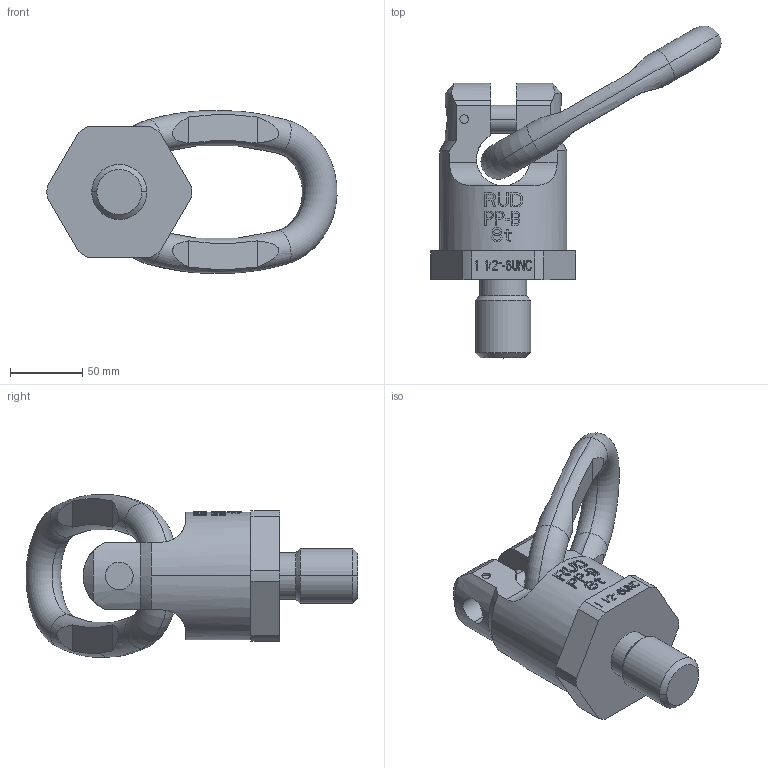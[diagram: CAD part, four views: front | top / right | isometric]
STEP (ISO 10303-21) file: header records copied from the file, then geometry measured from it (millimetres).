
FILE_DESCRIPTION((''),'2;1');
FILE_NAME('001-M31445-P4-60_ASM','2008-10-29T',('Azubitbm'),('RAND'),'PRO/ENGINEER BY PARAMETRIC TECHNOLOGY CORPORATION, 2005030','PRO/ENGINEER BY PARAMETRIC TECHNOLOGY CORPORATION, 2005030','');
FILE_SCHEMA(('CONFIG_CONTROL_DESIGN'));
Length unit declared in the file: millimetre
Products named in the file (4): 001-M31445-002; 001-M31445-007; 001-M31290-005; 001-M31445-P4-60_ASM
Assembly tree (3 placements, depth 2):
  001-M31445-P4-60_ASM
    001-M31445-002
    001-M31445-007
    001-M31290-005
Bounding box: 200.5 x 229.47 x 112.27 mm (x, y, z)
Volume: 818449.6 mm3; surface area: 102953.1 mm2
Topology: 3 solids, 3 shells, 562 faces, 1544 edges, 1024 vertices
Faces by surface type: plane 498, cylinder 48, cone 8, torus 8
Entity records: 18232 total; most frequent: CARTESIAN_POINT 4387, ORIENTED_EDGE 3088, DIRECTION 2470, EDGE_CURVE 1544, VERTEX_POINT 1024, VECTOR 1016, LINE 1016, AXIS2_PLACEMENT_3D 727
